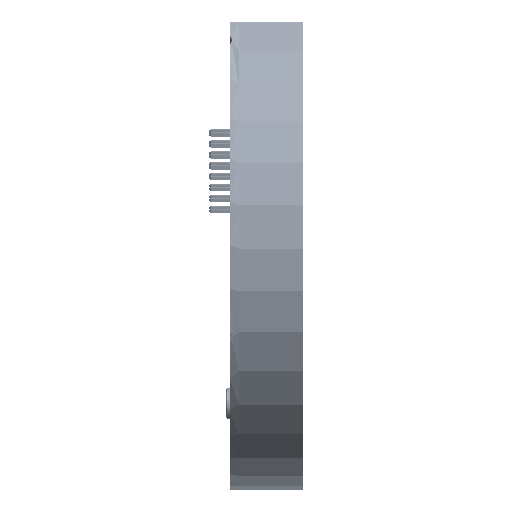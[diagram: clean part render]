
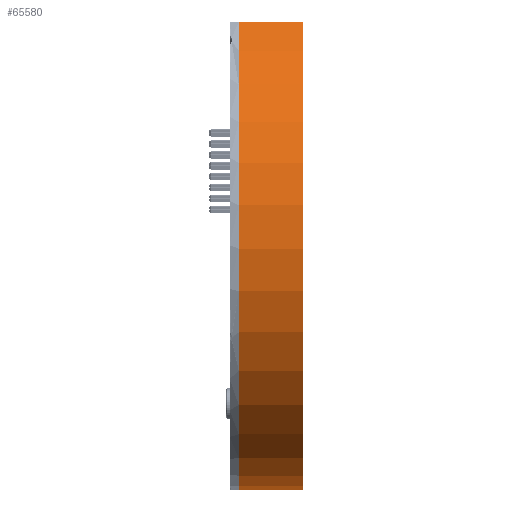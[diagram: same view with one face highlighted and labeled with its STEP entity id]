
A CAD part, left-side view. The second image highlights one B-rep face of the part: STEP entity #65580.
In plain terms, the highlighted cylindrical face has radius 29.21 mm (diameter 58.42 mm), a partial arc.
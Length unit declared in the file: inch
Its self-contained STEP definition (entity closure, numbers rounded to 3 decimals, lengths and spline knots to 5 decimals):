
#4 = ORIENTED_EDGE ( 'NONE', *, *, #44148, .T. ) ;
#16 = ORIENTED_EDGE ( 'NONE', *, *, #44151, .F. ) ;
#17 = ORIENTED_EDGE ( 'NONE', *, *, #44149, .T. ) ;
#23 = ORIENTED_EDGE ( 'NONE', *, *, #44147, .F. ) ;
#139 = CARTESIAN_POINT ( 'NONE',  ( -0.76142, 0.06188, 1.12746 ) ) ;
#155 = CARTESIAN_POINT ( 'NONE',  ( -0.07142, -0.22312, -0.94254 ) ) ;
#174 = CARTESIAN_POINT ( 'NONE',  ( -0.07142, 0.06188, -0.94254 ) ) ;
#182 = CARTESIAN_POINT ( 'NONE',  ( -0.76142, -0.22312, 1.12746 ) ) ;
#3414 = VERTEX_POINT ( 'NONE', #139 ) ;
#3430 = VERTEX_POINT ( 'NONE', #155 ) ;
#3449 = VERTEX_POINT ( 'NONE', #174 ) ;
#3457 = VERTEX_POINT ( 'NONE', #182 ) ;
#4332 = CIRCLE ( 'NONE', #54503, 1.15 ) ;
#4333 = LINE ( 'NONE', #27557, #4335 ) ;
#4334 = LINE ( 'NONE', #27588, #4338 ) ;
#4335 = VECTOR ( 'NONE', #27570, 39.37008 ) ;
#4338 = VECTOR ( 'NONE', #27583, 39.37008 ) ;
#4339 = CIRCLE ( 'NONE', #54505, 1.15 ) ;
#5826 = EDGE_LOOP ( 'NONE', ( #16, #17, #4, #23 ) ) ;
#27557 = CARTESIAN_POINT ( 'NONE',  ( -0.76142, 0.06188, 1.12746 ) ) ;
#27570 = DIRECTION ( 'NONE',  ( 0., -1., 0. ) ) ;
#27583 = DIRECTION ( 'NONE',  ( 0., -1., 0. ) ) ;
#27588 = CARTESIAN_POINT ( 'NONE',  ( -0.07142, 0.06188, -0.94254 ) ) ;
#27589 = CARTESIAN_POINT ( 'NONE',  ( -0.07142, -0.22312, 0.20746 ) ) ;
#27591 = DIRECTION ( 'NONE',  ( 0., 1., 0. ) ) ;
#27593 = DIRECTION ( 'NONE',  ( 0., 0., 1. ) ) ;
#27601 = CARTESIAN_POINT ( 'NONE',  ( -0.07142, 0.06188, 0.20746 ) ) ;
#27603 = DIRECTION ( 'NONE',  ( 0., 1., 0. ) ) ;
#27605 = DIRECTION ( 'NONE',  ( 0., 0., 1. ) ) ;
#44147 = EDGE_CURVE ( 'NONE', #3414, #3457, #4333, .T. ) ;
#44148 = EDGE_CURVE ( 'NONE', #3430, #3457, #4332, .T. ) ;
#44149 = EDGE_CURVE ( 'NONE', #3449, #3430, #4334, .T. ) ;
#44151 = EDGE_CURVE ( 'NONE', #3449, #3414, #4339, .T. ) ;
#49795 = FACE_OUTER_BOUND ( 'NONE', #5826, .T. ) ;
#49804 = CYLINDRICAL_SURFACE ( 'NONE', #72114, 1.15 ) ;
#52350 = DIRECTION ( 'NONE',  ( 0., 0., -1. ) ) ;
#52355 = DIRECTION ( 'NONE',  ( 0., -1., 0. ) ) ;
#52360 = CARTESIAN_POINT ( 'NONE',  ( -0.07142, 0.06188, 0.20746 ) ) ;
#54503 = AXIS2_PLACEMENT_3D ( 'NONE', #27589, #27591, #27593 ) ;
#54505 = AXIS2_PLACEMENT_3D ( 'NONE', #27601, #27603, #27605 ) ;
#65580 = ADVANCED_FACE ( 'NONE', ( #49795 ), #49804, .T. ) ;
#72114 = AXIS2_PLACEMENT_3D ( 'NONE', #52360, #52355, #52350 ) ;
